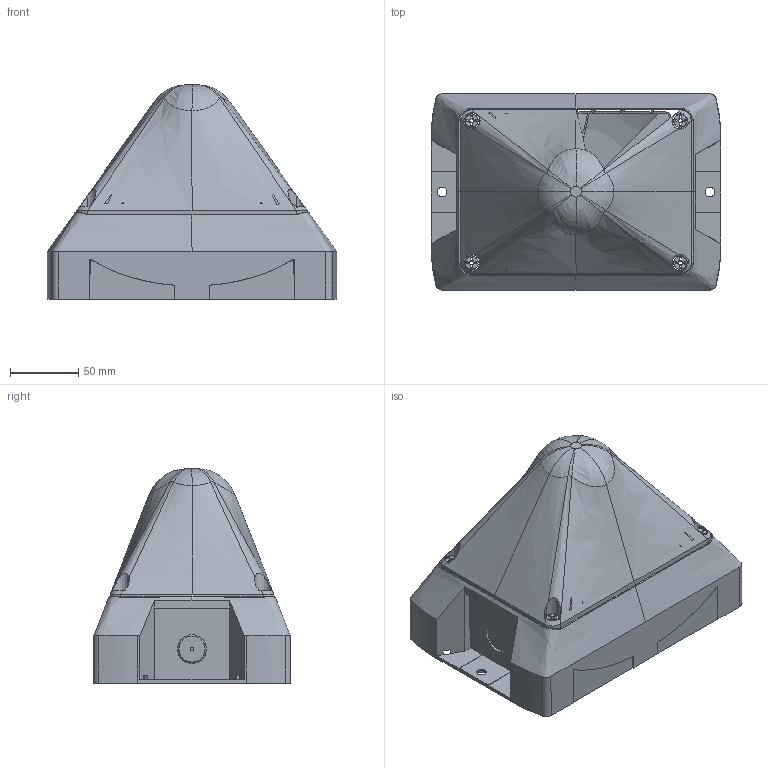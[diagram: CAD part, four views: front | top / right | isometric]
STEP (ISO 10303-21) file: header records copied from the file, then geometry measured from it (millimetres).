
FILE_DESCRIPTION (( 'STEP AP214' ), '1' );
FILE_NAME ('PY X-L.STEP', '2017-06-01T07:00:48', ( '' ), ( '' ), 'SwSTEP 2.0', 'SolidWorks 2015', '' );
FILE_SCHEMA (( 'AUTOMOTIVE_DESIGN' ));
Length unit declared in the file: millimetre
Products named in the file (2): PY X-L
Bounding box: 212 x 144 x 157 mm (x, y, z)
Surface area: 195874.5 mm2 (no closed solid volume)
Topology: 0 solids, 26 shells, 674 faces, 2784 edges, 2089 vertices
Faces by surface type: plane 314, bspline 160, cone 137, torus 41, cylinder 20, sphere 2
Entity records: 50970 total; most frequent: CARTESIAN_POINT 24297, ORIENTED_EDGE 4208, EDGE_CURVE 2782, DIRECTION 2764, VERTEX_POINT 2089, B_SPLINE_CURVE_WITH_KNOTS 1314, LINE 992, VECTOR 992
